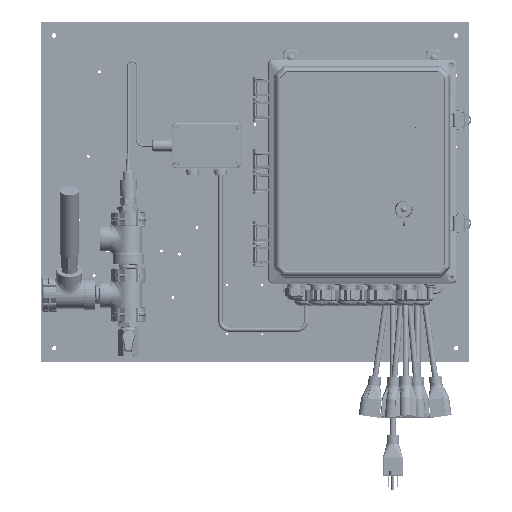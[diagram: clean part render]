
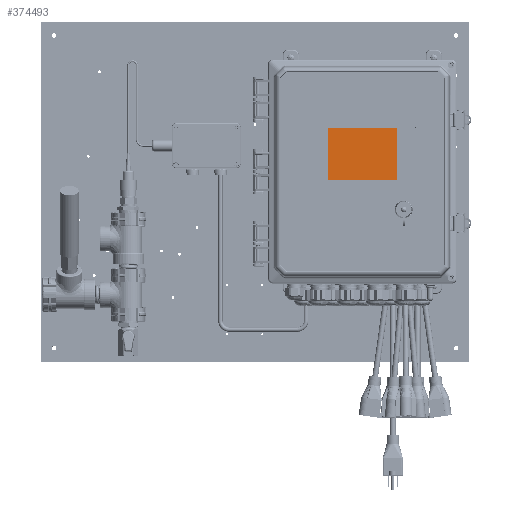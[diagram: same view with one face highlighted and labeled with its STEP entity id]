
A CAD part, top view. The second image highlights one B-rep face of the part: STEP entity #374493.
In plain terms, the highlighted planar face has unit normal (0, 0, 1) as drawn and (0, 0.819, -0.574) by its records, which use the part's own axes.
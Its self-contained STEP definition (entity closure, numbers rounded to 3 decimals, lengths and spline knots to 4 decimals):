
#19546 = VERTEX_POINT ( 'NONE', #202146 ) ;
#24872 = VECTOR ( 'NONE', #357189, 39.3701 ) ;
#58988 = CARTESIAN_POINT ( 'NONE',  ( -0.8381, 5.0654, 1.8349 ) ) ;
#62663 = CARTESIAN_POINT ( 'NONE',  ( -3.752, 5.0654, 1.8349 ) ) ;
#86700 = CARTESIAN_POINT ( 'NONE',  ( -3.752, 7.2791, 4.9955 ) ) ;
#96720 = DIRECTION ( 'NONE',  ( 0., 0.574, 0.819 ) ) ;
#117303 = EDGE_LOOP ( 'NONE', ( #183541, #119019, #331200, #265313 ) ) ;
#119019 = ORIENTED_EDGE ( 'NONE', *, *, #291210, .T. ) ;
#128924 = LINE ( 'NONE', #326714, #450679 ) ;
#145426 = PLANE ( 'NONE',  #388701 ) ;
#147025 = VECTOR ( 'NONE', #167066, 39.3701 ) ;
#159369 = CARTESIAN_POINT ( 'NONE',  ( -3.752, 7.2791, 4.9955 ) ) ;
#167066 = DIRECTION ( 'NONE',  ( 0., 0.574, 0.819 ) ) ;
#183541 = ORIENTED_EDGE ( 'NONE', *, *, #434720, .T. ) ;
#202146 = CARTESIAN_POINT ( 'NONE',  ( -3.752, 5.0654, 1.8349 ) ) ;
#260410 = DIRECTION ( 'NONE',  ( -1., 0., 0. ) ) ;
#264330 = LINE ( 'NONE', #611273, #147025 ) ;
#265313 = ORIENTED_EDGE ( 'NONE', *, *, #327513, .T. ) ;
#279604 = VERTEX_POINT ( 'NONE', #86700 ) ;
#291210 = EDGE_CURVE ( 'NONE', #279604, #457441, #603553, .T. ) ;
#326714 = CARTESIAN_POINT ( 'NONE',  ( -0.8381, 5.0654, 1.8349 ) ) ;
#327513 = EDGE_CURVE ( 'NONE', #345799, #19546, #506838, .T. ) ;
#331200 = ORIENTED_EDGE ( 'NONE', *, *, #570857, .T. ) ;
#343217 = CARTESIAN_POINT ( 'NONE',  ( 0., 2.5361, -1.7763 ) ) ;
#345799 = VERTEX_POINT ( 'NONE', #58988 ) ;
#357189 = DIRECTION ( 'NONE',  ( 1., 0., 0. ) ) ;
#374493 = ADVANCED_FACE ( 'NONE', ( #589574 ), #145426, .T. ) ;
#388701 = AXIS2_PLACEMENT_3D ( 'NONE', #343217, #540943, #96720 ) ;
#409063 = CARTESIAN_POINT ( 'NONE',  ( -0.8381, 7.2791, 4.9955 ) ) ;
#434720 = EDGE_CURVE ( 'NONE', #19546, #279604, #264330, .T. ) ;
#450679 = VECTOR ( 'NONE', #524467, 39.3701 ) ;
#457441 = VERTEX_POINT ( 'NONE', #409063 ) ;
#459819 = VECTOR ( 'NONE', #260410, 39.3701 ) ;
#506838 = LINE ( 'NONE', #62663, #459819 ) ;
#524467 = DIRECTION ( 'NONE',  ( 0., -0.574, -0.819 ) ) ;
#540943 = DIRECTION ( 'NONE',  ( 0., 0.819, -0.574 ) ) ;
#570857 = EDGE_CURVE ( 'NONE', #457441, #345799, #128924, .T. ) ;
#589574 = FACE_OUTER_BOUND ( 'NONE', #117303, .T. ) ;
#603553 = LINE ( 'NONE', #159369, #24872 ) ;
#611273 = CARTESIAN_POINT ( 'NONE',  ( -3.752, 5.0654, 1.8349 ) ) ;
